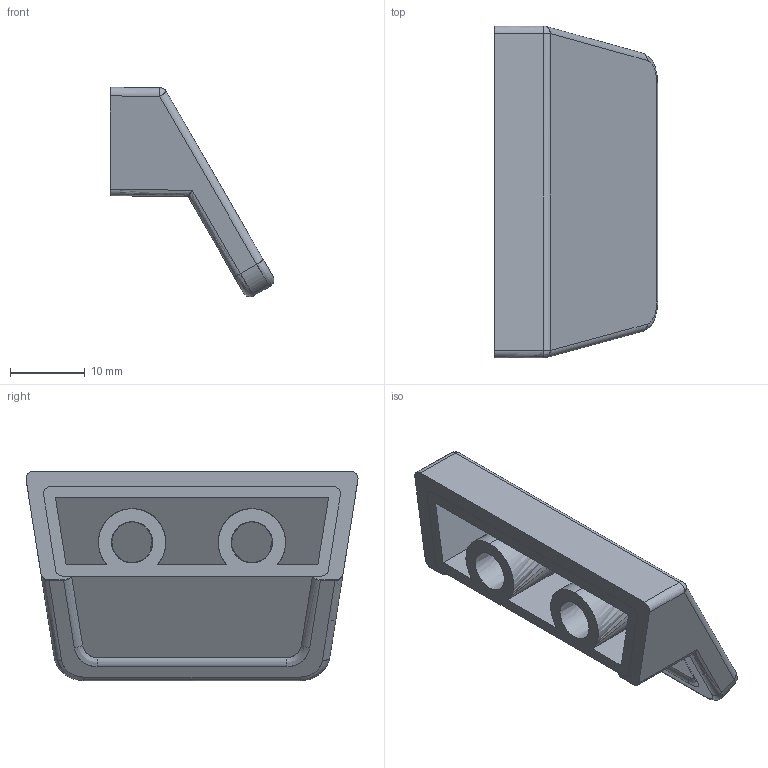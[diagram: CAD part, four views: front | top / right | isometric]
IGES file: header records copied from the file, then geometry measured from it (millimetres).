
Start section: C
Global section: file name: 8198-44.igs; native system: By Siemens PLM Incorporated; preprocessor: XPlus GENERIC/IGES 16.0.42; author: Author; organization: Title; date: 20210505.131039; units: millimetre
Bounding box: 21.86 x 44.34 x 27.98 mm (x, y, z)
Surface area: 8067.3 mm2 (no closed solid volume)
Topology: 0 solids, 0 shells, 92 faces, 475 edges, 470 vertices
Faces by surface type: bspline 92
